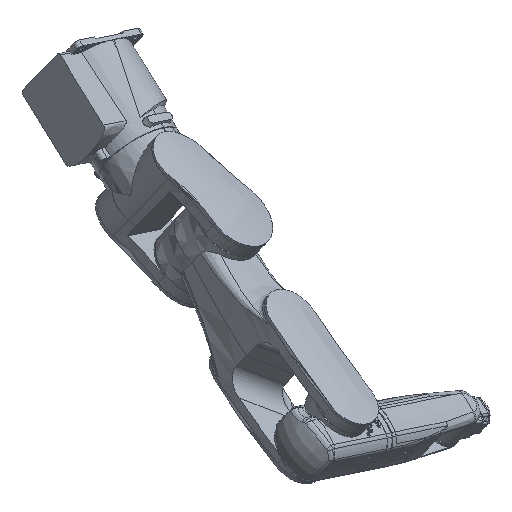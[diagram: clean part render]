
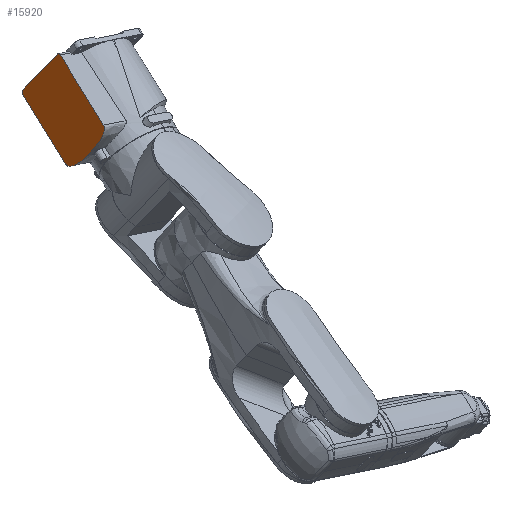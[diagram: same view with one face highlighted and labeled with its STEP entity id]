
A CAD part, top view. The second image highlights one B-rep face of the part: STEP entity #15920.
In plain terms, the highlighted planar face has unit normal (-0.672, -0.137, 0.728) as drawn and (-1, 0, 0) by its records, which use the part's own axes.
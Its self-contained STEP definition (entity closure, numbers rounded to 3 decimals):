
#176 = LINE ( 'NONE', #37738, #48996 ) ;
#3423 = VERTEX_POINT ( 'NONE', #38409 ) ;
#4696 = CARTESIAN_POINT ( 'NONE',  ( -10.996, 72.475, 43.711 ) ) ;
#4835 = DIRECTION ( 'NONE',  ( 0., 1., 0. ) ) ;
#6078 = CARTESIAN_POINT ( 'NONE',  ( -10.996, 207.475, 233.711 ) ) ;
#6721 = VECTOR ( 'NONE', #45660, 1000. ) ;
#7434 = EDGE_CURVE ( 'NONE', #33187, #3423, #12315, .T. ) ;
#7598 = CARTESIAN_POINT ( 'NONE',  ( -10.996, 72.475, 233.711 ) ) ;
#7653 = EDGE_CURVE ( 'NONE', #33187, #38841, #34796, .T. ) ;
#7783 = CARTESIAN_POINT ( 'NONE',  ( -10.996, 207.475, 233.711 ) ) ;
#8916 = DIRECTION ( 'NONE',  ( 1., 0., 0. ) ) ;
#9277 = DIRECTION ( 'NONE',  ( 0., 0., 1. ) ) ;
#10468 = VERTEX_POINT ( 'NONE', #21405 ) ;
#10865 = AXIS2_PLACEMENT_3D ( 'NONE', #19383, #11582, #23911 ) ;
#11582 = DIRECTION ( 'NONE',  ( 1., 0., 0. ) ) ;
#11897 = CARTESIAN_POINT ( 'NONE',  ( -10.996, 99.464, 37.711 ) ) ;
#12315 =( BOUNDED_CURVE ( )  B_SPLINE_CURVE ( 2, ( #15938, #7783, #19564 ),
 .UNSPECIFIED., .F., .F. ) 
 B_SPLINE_CURVE_WITH_KNOTS ( ( 3, 3 ),
 ( -0.008, 0.058 ),
 .UNSPECIFIED. ) 
 CURVE ( )  GEOMETRIC_REPRESENTATION_ITEM ( )  RATIONAL_B_SPLINE_CURVE ( ( 1., 0.707, 1. ) ) 
 REPRESENTATION_ITEM ( '' )  );
#12476 = DIRECTION ( 'NONE',  ( 0., 0., 1. ) ) ;
#12805 = EDGE_CURVE ( 'NONE', #23213, #38841, #36450, .T. ) ;
#14634 = ORIENTED_EDGE ( 'NONE', *, *, #12805, .F. ) ;
#14922 = ORIENTED_EDGE ( 'NONE', *, *, #7434, .F. ) ;
#15247 = CARTESIAN_POINT ( 'NONE',  ( -10.996, 78.475, 37.711 ) ) ;
#15920 = ADVANCED_FACE ( 'NONE', ( #25839 ), #32642, .F. ) ;
#15938 = CARTESIAN_POINT ( 'NONE',  ( -10.996, 207.475, 213.711 ) ) ;
#16246 =( BOUNDED_CURVE ( )  B_SPLINE_CURVE ( 2, ( #25432, #21602, #50549 ),
 .UNSPECIFIED., .F., .F. ) 
 B_SPLINE_CURVE_WITH_KNOTS ( ( 3, 3 ),
 ( -0.059, 0.008 ),
 .UNSPECIFIED. ) 
 CURVE ( )  GEOMETRIC_REPRESENTATION_ITEM ( )  RATIONAL_B_SPLINE_CURVE ( ( 1., 0.707, 1. ) ) 
 REPRESENTATION_ITEM ( '' )  );
#16424 = EDGE_CURVE ( 'NONE', #48332, #38572, #33618, .T. ) ;
#16919 = EDGE_CURVE ( 'NONE', #48332, #10468, #30328, .T. ) ;
#17543 = CARTESIAN_POINT ( 'NONE',  ( -10.996, 201.475, 37.711 ) ) ;
#19383 = CARTESIAN_POINT ( 'NONE',  ( -10.996, 99.464, 230.412 ) ) ;
#19564 = CARTESIAN_POINT ( 'NONE',  ( -10.996, 147.475, 233.711 ) ) ;
#21241 = CARTESIAN_POINT ( 'NONE',  ( -10.996, 201.475, 43.711 ) ) ;
#21405 = CARTESIAN_POINT ( 'NONE',  ( -10.996, 72.475, 213.711 ) ) ;
#21431 = DIRECTION ( 'NONE',  ( 0., 0., -1. ) ) ;
#21602 = CARTESIAN_POINT ( 'NONE',  ( -10.996, 72.475, 233.711 ) ) ;
#22914 = CARTESIAN_POINT ( 'NONE',  ( -10.996, 132.475, 233.711 ) ) ;
#23213 = VERTEX_POINT ( 'NONE', #17543 ) ;
#23216 = ORIENTED_EDGE ( 'NONE', *, *, #7653, .T. ) ;
#23911 = DIRECTION ( 'NONE',  ( 0., 0., -1. ) ) ;
#25432 = CARTESIAN_POINT ( 'NONE',  ( -10.996, 132.475, 233.711 ) ) ;
#25839 = FACE_OUTER_BOUND ( 'NONE', #36943, .T. ) ;
#30098 = EDGE_CURVE ( 'NONE', #38572, #23213, #34005, .T. ) ;
#30328 = LINE ( 'NONE', #7598, #31654 ) ;
#30333 = AXIS2_PLACEMENT_3D ( 'NONE', #47204, #42486, #9277 ) ;
#31654 = VECTOR ( 'NONE', #12476, 1000. ) ;
#31867 = ORIENTED_EDGE ( 'NONE', *, *, #35224, .F. ) ;
#32574 = ORIENTED_EDGE ( 'NONE', *, *, #16919, .T. ) ;
#32642 = PLANE ( 'NONE',  #10865 ) ;
#33187 = VERTEX_POINT ( 'NONE', #46879 ) ;
#33618 = CIRCLE ( 'NONE', #30333, 6. ) ;
#34005 = LINE ( 'NONE', #11897, #6721 ) ;
#34796 = LINE ( 'NONE', #6078, #41332 ) ;
#35224 = EDGE_CURVE ( 'NONE', #53219, #10468, #16246, .T. ) ;
#35740 = ORIENTED_EDGE ( 'NONE', *, *, #16424, .F. ) ;
#36450 = CIRCLE ( 'NONE', #53630, 6. ) ;
#36943 = EDGE_LOOP ( 'NONE', ( #31867, #49888, #14922, #23216, #14634, #48590, #35740, #32574 ) ) ;
#37738 = CARTESIAN_POINT ( 'NONE',  ( -10.996, 139.975, 233.711 ) ) ;
#38409 = CARTESIAN_POINT ( 'NONE',  ( -10.996, 147.475, 233.711 ) ) ;
#38572 = VERTEX_POINT ( 'NONE', #15247 ) ;
#38841 = VERTEX_POINT ( 'NONE', #44666 ) ;
#38891 = EDGE_CURVE ( 'NONE', #53219, #3423, #176, .T. ) ;
#39537 = DIRECTION ( 'NONE',  ( 0., 0., -1. ) ) ;
#41332 = VECTOR ( 'NONE', #39537, 1000. ) ;
#42486 = DIRECTION ( 'NONE',  ( 1., 0., 0. ) ) ;
#44666 = CARTESIAN_POINT ( 'NONE',  ( -10.996, 207.475, 43.711 ) ) ;
#45660 = DIRECTION ( 'NONE',  ( 0., 1., 0. ) ) ;
#46879 = CARTESIAN_POINT ( 'NONE',  ( -10.996, 207.475, 213.711 ) ) ;
#47204 = CARTESIAN_POINT ( 'NONE',  ( -10.996, 78.475, 43.711 ) ) ;
#48332 = VERTEX_POINT ( 'NONE', #4696 ) ;
#48590 = ORIENTED_EDGE ( 'NONE', *, *, #30098, .F. ) ;
#48996 = VECTOR ( 'NONE', #4835, 1000. ) ;
#49888 = ORIENTED_EDGE ( 'NONE', *, *, #38891, .T. ) ;
#50549 = CARTESIAN_POINT ( 'NONE',  ( -10.996, 72.475, 213.711 ) ) ;
#53219 = VERTEX_POINT ( 'NONE', #22914 ) ;
#53630 = AXIS2_PLACEMENT_3D ( 'NONE', #21241, #8916, #21431 ) ;
